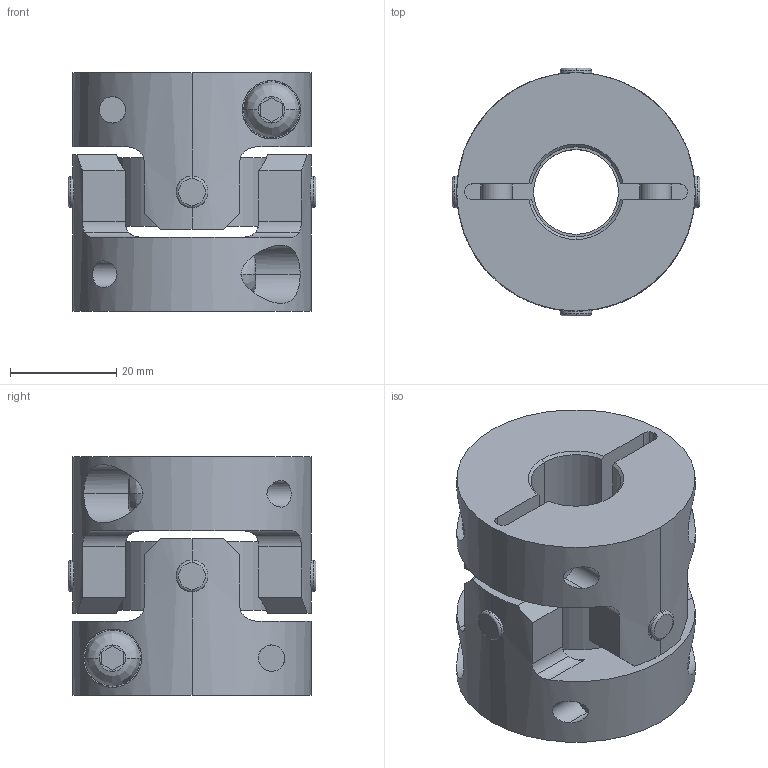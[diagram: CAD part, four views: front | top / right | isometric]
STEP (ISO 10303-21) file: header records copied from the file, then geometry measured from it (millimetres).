
FILE_DESCRIPTION((''),'2;1');
FILE_NAME('UA-45C-17×17.stp','2013-05-22T09:40:41',(''),(''),'AutoCAD STEP 2000i','AutoCAD 2000i',', , ');
FILE_SCHEMA(('CONFIG_CONTROL_DESIGN'));
Length unit declared in the file: millimetre
Products named in the file (8): UA-45C-17×17; 忣兜1; UA-4502-D17-1; BTN-M6; UA-4502-D17; UA-4502-D08-1; UA-4502-D08; UA45-SEN
Assembly tree (10 placements, depth 3):
  UA-45C-17×17
    忣兜1
    UA-4502-D17-1
      BTN-M6
    UA-4502-D17
      BTN-M6
    UA-4502-D08-1
      BTN-M6
    UA-4502-D08
      BTN-M6
    UA45-SEN
Bounding box: 46.73 x 46.73 x 45 mm (x, y, z)
Volume: 48596.5 mm3; surface area: 19408.5 mm2
Topology: 1 solids, 1 shells, 206 faces, 554 edges, 364 vertices
Faces by surface type: cylinder 96, plane 78, cone 16, bspline 8, torus 8
Entity records: 8551 total; most frequent: CARTESIAN_POINT 3195, ORIENTED_EDGE 1108, DIRECTION 1072, EDGE_CURVE 554, AXIS2_PLACEMENT_3D 413, VERTEX_POINT 364, VECTOR 246, LINE 246
